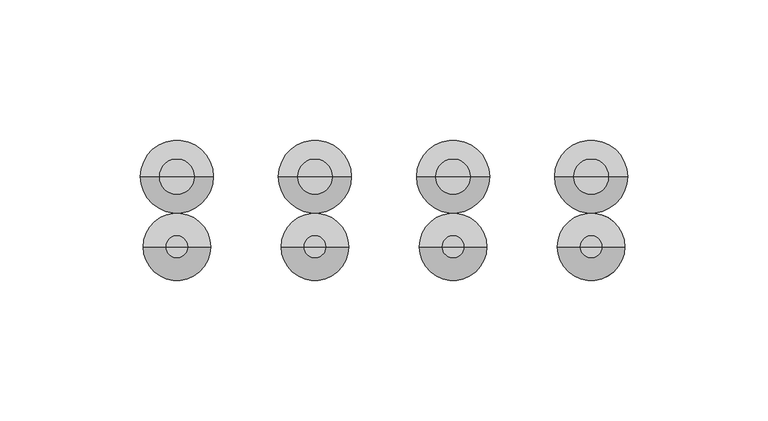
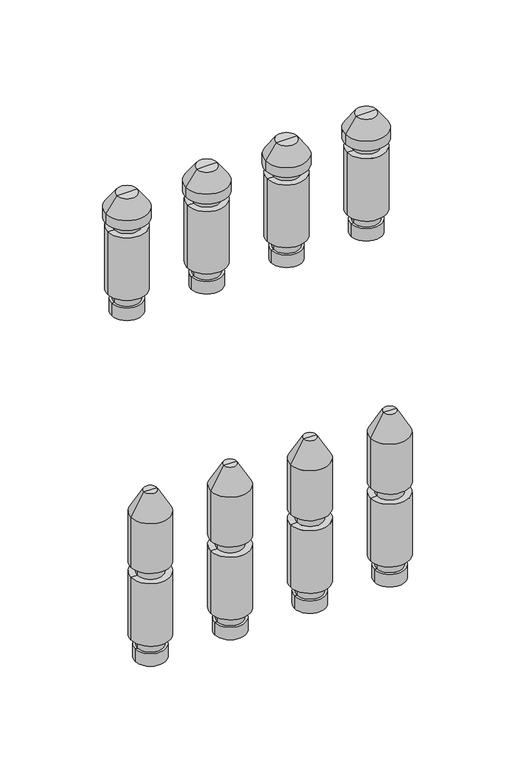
"""IFC4 building model written with IfcOpenShell, lengths in millimetres: valve geometry, PL AT_Manifold_FT-EV : 11 circuits."""

from ifc_helpers import new_model, si_unit, frame, origin, place, context, project, spatial, polyline, circle_curve, source, transform, mapped, element, save
from ifc_brep_helpers import plane_surface, cylinder_surface, revolved_surface, advanced_brep


def valve_f26d3ca9(model_context):
    return source(origin(), model_context, "Body", "AdvancedBrep", [
        advanced_brep(
        [(278.5, 0.0, -35.11267), (297.5, 0.0, -35.11267), (288.0, 0.0, -35.11267), (278.5, 0.0, -27.0369646), (297.5, 0.0, -27.0369646), (280.0, 0.0, -27.0369646), (296.0, 0.0, -27.0369646), (280.0, 0.0, -20.330253), (296.0, 0.0, -20.330253), (276.0, 0.0, -20.330253), (300.0, 0.0, -20.330253), (276.0, 0.0, 20.330253), (300.0, 0.0, 20.330253), (280.0, 0.0, 20.330253), (296.0, 0.0, 20.330253), (280.0, 0.0, 27.0474786), (296.0, 0.0, 27.0474786), (276.0, 0.0, 27.0474786), (300.0, 0.0, 27.0474786), (276.0, 0.0, 59.4084325), (300.0, 0.0, 59.4084325), (284.0, 0.0, 73.264839), (292.0, 0.0, 73.264839), (288.0, 0.0, 73.264839)],
        [
            (0, 1, circle_curve(frame((288.0, 0.0, -35.11267), z_axis=(0.0, 0.0, -1.0), x_axis=(1.0, 0.0, 0.0)), 9.5)),
            (1, 2),
            (2, 0),
            (1, 0, circle_curve(frame((288.0, 0.0, -35.11267), z_axis=(0.0, 0.0, -1.0), x_axis=(1.0, 0.0, 0.0)), 9.5)),
            (3, 4, circle_curve(frame((288.0, 0.0, -27.0369646), z_axis=(0.0, 0.0, -1.0), x_axis=(1.0, 0.0, 0.0)), 9.5)),
            (4, 1),
            (0, 3),
            (4, 3, circle_curve(frame((288.0, 0.0, -27.0369646), z_axis=(0.0, 0.0, -1.0), x_axis=(1.0, 0.0, 0.0)), 9.5)),
            (5, 6, circle_curve(frame((288.0, 0.0, -27.0369646), z_axis=(0.0, 0.0, -1.0), x_axis=(1.0, 0.0, 0.0)), 8.0)),
            (6, 4),
            (3, 5),
            (6, 5, circle_curve(frame((288.0, 0.0, -27.0369646), z_axis=(0.0, 0.0, -1.0), x_axis=(1.0, 0.0, 0.0)), 8.0)),
            (7, 8, circle_curve(frame((288.0, 0.0, -20.330253), z_axis=(0.0, 0.0, -1.0), x_axis=(1.0, 0.0, 0.0)), 8.0)),
            (8, 6),
            (5, 7),
            (8, 7, circle_curve(frame((288.0, 0.0, -20.330253), z_axis=(0.0, 0.0, -1.0), x_axis=(1.0, 0.0, 0.0)), 8.0)),
            (9, 10, circle_curve(frame((288.0, 0.0, -20.330253), z_axis=(0.0, 0.0, -1.0), x_axis=(1.0, 0.0, 0.0)), 12.0)),
            (10, 8),
            (7, 9),
            (10, 9, circle_curve(frame((288.0, 0.0, -20.330253), z_axis=(0.0, 0.0, -1.0), x_axis=(1.0, 0.0, 0.0)), 12.0)),
            (11, 12, circle_curve(frame((288.0, 0.0, 20.330253), z_axis=(0.0, 0.0, -1.0), x_axis=(1.0, 0.0, 0.0)), 12.0)),
            (12, 10),
            (9, 11),
            (12, 11, circle_curve(frame((288.0, 0.0, 20.330253), z_axis=(0.0, 0.0, -1.0), x_axis=(1.0, 0.0, 0.0)), 12.0)),
            (13, 14, circle_curve(frame((288.0, 0.0, 20.330253), z_axis=(0.0, 0.0, -1.0), x_axis=(1.0, 0.0, 0.0)), 8.0)),
            (14, 12),
            (11, 13),
            (14, 13, circle_curve(frame((288.0, 0.0, 20.330253), z_axis=(0.0, 0.0, -1.0), x_axis=(1.0, 0.0, 0.0)), 8.0)),
            (15, 16, circle_curve(frame((288.0, 0.0, 27.0474786), z_axis=(0.0, 0.0, -1.0), x_axis=(1.0, 0.0, 0.0)), 8.0)),
            (16, 14),
            (13, 15),
            (16, 15, circle_curve(frame((288.0, 0.0, 27.0474786), z_axis=(0.0, 0.0, -1.0), x_axis=(1.0, 0.0, 0.0)), 8.0)),
            (17, 18, circle_curve(frame((288.0, 0.0, 27.0474786), z_axis=(0.0, 0.0, -1.0), x_axis=(1.0, 0.0, 0.0)), 12.0)),
            (18, 16),
            (15, 17),
            (18, 17, circle_curve(frame((288.0, 0.0, 27.0474786), z_axis=(0.0, 0.0, -1.0), x_axis=(1.0, 0.0, 0.0)), 12.0)),
            (19, 20, circle_curve(frame((288.0, 0.0, 59.4084325), z_axis=(0.0, 0.0, -1.0), x_axis=(1.0, 0.0, 0.0)), 12.0)),
            (20, 18),
            (17, 19),
            (20, 19, circle_curve(frame((288.0, 0.0, 59.4084325), z_axis=(0.0, 0.0, -1.0), x_axis=(1.0, 0.0, 0.0)), 12.0)),
            (21, 22, circle_curve(frame((288.0, 0.0, 73.264839), z_axis=(0.0, 0.0, -1.0), x_axis=(1.0, 0.0, 0.0)), 4.0)),
            (22, 20),
            (19, 21),
            (22, 21, circle_curve(frame((288.0, 0.0, 73.264839), z_axis=(0.0, 0.0, -1.0), x_axis=(1.0, 0.0, 0.0)), 4.0)),
            (23, 22),
            (21, 23),
        ],
        [
            plane_surface(frame((288.0, 0.0, -35.11267), z_axis=(0.0, 0.0, -1.0), x_axis=(1.0, 0.0, 0.0))),
            cylinder_surface(frame((288.0, 0.0, 58.264839), z_axis=(0.0, 0.0, 1.0), x_axis=(1.0, 0.0, 0.0)), 9.5),
            plane_surface(frame((288.0, 0.0, -27.0369646), z_axis=(0.0, 0.0, 1.0), x_axis=(1.0, 0.0, 0.0))),
            cylinder_surface(frame((288.0, 0.0, 58.264839), z_axis=(0.0, 0.0, 1.0), x_axis=(1.0, 0.0, 0.0)), 8.0),
            plane_surface(frame((288.0, 0.0, -20.330253), z_axis=(0.0, 0.0, -1.0), x_axis=(1.0, 0.0, 0.0))),
            cylinder_surface(frame((288.0, 0.0, 58.264839), z_axis=(0.0, 0.0, 1.0), x_axis=(1.0, 0.0, 0.0)), 12.0),
            plane_surface(frame((288.0, 0.0, 20.330253), z_axis=(0.0, 0.0, 1.0), x_axis=(1.0, 0.0, 0.0))),
            plane_surface(frame((288.0, 0.0, 27.0474786), z_axis=(0.0, 0.0, -1.0), x_axis=(1.0, 0.0, 0.0))),
            revolved_surface(polyline([(300.0, 0.0, 59.4084325), (292.0, 0.0, 73.264839)]), (288.0, 0.0, 58.264839), (0.0, 0.0, 1.0)),
            plane_surface(frame((288.0, 0.0, 73.264839), z_axis=(0.0, 0.0, 1.0), x_axis=(1.0, 0.0, 0.0))),
        ],
        [
            (0, [[1, 2, 3]]),
            (0, [[4, -3, -2]]),
            (1, [[5, 6, -1, 7]]),
            (1, [[8, -7, -4, -6]]),
            (2, [[9, 10, -5, 11]]),
            (2, [[12, -11, -8, -10]]),
            (3, [[13, 14, -9, 15]]),
            (3, [[16, -15, -12, -14]]),
            (4, [[17, 18, -13, 19]]),
            (4, [[20, -19, -16, -18]]),
            (5, [[21, 22, -17, 23]]),
            (5, [[24, -23, -20, -22]]),
            (6, [[25, 26, -21, 27]]),
            (6, [[28, -27, -24, -26]]),
            (3, [[29, 30, -25, 31]]),
            (3, [[32, -31, -28, -30]]),
            (7, [[33, 34, -29, 35]]),
            (7, [[36, -35, -32, -34]]),
            (5, [[37, 38, -33, 39]]),
            (5, [[40, -39, -36, -38]]),
            (8, [[41, 42, -37, 43]]),
            (8, [[44, -43, -40, -42]]),
            (9, [[45, -41, 46]]),
            (9, [[-46, -44, -45]]),
        ],
    ),
        advanced_brep(
        [(229.3, 0.0, -35.11267), (248.3, 0.0, -35.11267), (238.8, 0.0, -35.11267), (229.3, 0.0, -27.0369646), (248.3, 0.0, -27.0369646), (230.8, 0.0, -27.0369646), (246.8, 0.0, -27.0369646), (230.8, 0.0, -20.330253), (246.8, 0.0, -20.330253), (226.8, 0.0, -20.330253), (250.8, 0.0, -20.330253), (226.8, 0.0, 20.330253), (250.8, 0.0, 20.330253), (230.8, 0.0, 20.330253), (246.8, 0.0, 20.330253), (230.8, 0.0, 27.0474786), (246.8, 0.0, 27.0474786), (226.8, 0.0, 27.0474786), (250.8, 0.0, 27.0474786), (226.8, 0.0, 59.4084325), (250.8, 0.0, 59.4084325), (234.8, 0.0, 73.264839), (242.8, 0.0, 73.264839), (238.8, 0.0, 73.264839)],
        [
            (0, 1, circle_curve(frame((238.8, 0.0, -35.11267), z_axis=(0.0, 0.0, -1.0), x_axis=(1.0, 0.0, 0.0)), 9.5)),
            (1, 2),
            (2, 0),
            (1, 0, circle_curve(frame((238.8, 0.0, -35.11267), z_axis=(0.0, 0.0, -1.0), x_axis=(1.0, 0.0, 0.0)), 9.5)),
            (3, 4, circle_curve(frame((238.8, 0.0, -27.0369646), z_axis=(0.0, 0.0, -1.0), x_axis=(1.0, 0.0, 0.0)), 9.5)),
            (4, 1),
            (0, 3),
            (4, 3, circle_curve(frame((238.8, 0.0, -27.0369646), z_axis=(0.0, 0.0, -1.0), x_axis=(1.0, 0.0, 0.0)), 9.5)),
            (5, 6, circle_curve(frame((238.8, 0.0, -27.0369646), z_axis=(0.0, 0.0, -1.0), x_axis=(1.0, 0.0, 0.0)), 8.0)),
            (6, 4),
            (3, 5),
            (6, 5, circle_curve(frame((238.8, 0.0, -27.0369646), z_axis=(0.0, 0.0, -1.0), x_axis=(1.0, 0.0, 0.0)), 8.0)),
            (7, 8, circle_curve(frame((238.8, 0.0, -20.330253), z_axis=(0.0, 0.0, -1.0), x_axis=(1.0, 0.0, 0.0)), 8.0)),
            (8, 6),
            (5, 7),
            (8, 7, circle_curve(frame((238.8, 0.0, -20.330253), z_axis=(0.0, 0.0, -1.0), x_axis=(1.0, 0.0, 0.0)), 8.0)),
            (9, 10, circle_curve(frame((238.8, 0.0, -20.330253), z_axis=(0.0, 0.0, -1.0), x_axis=(1.0, 0.0, 0.0)), 12.0)),
            (10, 8),
            (7, 9),
            (10, 9, circle_curve(frame((238.8, 0.0, -20.330253), z_axis=(0.0, 0.0, -1.0), x_axis=(1.0, 0.0, 0.0)), 12.0)),
            (11, 12, circle_curve(frame((238.8, 0.0, 20.330253), z_axis=(0.0, 0.0, -1.0), x_axis=(1.0, 0.0, 0.0)), 12.0)),
            (12, 10),
            (9, 11),
            (12, 11, circle_curve(frame((238.8, 0.0, 20.330253), z_axis=(0.0, 0.0, -1.0), x_axis=(1.0, 0.0, 0.0)), 12.0)),
            (13, 14, circle_curve(frame((238.8, 0.0, 20.330253), z_axis=(0.0, 0.0, -1.0), x_axis=(1.0, 0.0, 0.0)), 8.0)),
            (14, 12),
            (11, 13),
            (14, 13, circle_curve(frame((238.8, 0.0, 20.330253), z_axis=(0.0, 0.0, -1.0), x_axis=(1.0, 0.0, 0.0)), 8.0)),
            (15, 16, circle_curve(frame((238.8, 0.0, 27.0474786), z_axis=(0.0, 0.0, -1.0), x_axis=(1.0, 0.0, 0.0)), 8.0)),
            (16, 14),
            (13, 15),
            (16, 15, circle_curve(frame((238.8, 0.0, 27.0474786), z_axis=(0.0, 0.0, -1.0), x_axis=(1.0, 0.0, 0.0)), 8.0)),
            (17, 18, circle_curve(frame((238.8, 0.0, 27.0474786), z_axis=(0.0, 0.0, -1.0), x_axis=(1.0, 0.0, 0.0)), 12.0)),
            (18, 16),
            (15, 17),
            (18, 17, circle_curve(frame((238.8, 0.0, 27.0474786), z_axis=(0.0, 0.0, -1.0), x_axis=(1.0, 0.0, 0.0)), 12.0)),
            (19, 20, circle_curve(frame((238.8, 0.0, 59.4084325), z_axis=(0.0, 0.0, -1.0), x_axis=(1.0, 0.0, 0.0)), 12.0)),
            (20, 18),
            (17, 19),
            (20, 19, circle_curve(frame((238.8, 0.0, 59.4084325), z_axis=(0.0, 0.0, -1.0), x_axis=(1.0, 0.0, 0.0)), 12.0)),
            (21, 22, circle_curve(frame((238.8, 0.0, 73.264839), z_axis=(0.0, 0.0, -1.0), x_axis=(1.0, 0.0, 0.0)), 4.0)),
            (22, 20),
            (19, 21),
            (22, 21, circle_curve(frame((238.8, 0.0, 73.264839), z_axis=(0.0, 0.0, -1.0), x_axis=(1.0, 0.0, 0.0)), 4.0)),
            (23, 22),
            (21, 23),
        ],
        [
            plane_surface(frame((238.8, 0.0, -35.11267), z_axis=(0.0, 0.0, -1.0), x_axis=(1.0, 0.0, 0.0))),
            cylinder_surface(frame((238.8, 0.0, 58.264839), z_axis=(0.0, 0.0, 1.0), x_axis=(1.0, 0.0, 0.0)), 9.5),
            plane_surface(frame((238.8, 0.0, -27.0369646), z_axis=(0.0, 0.0, 1.0), x_axis=(1.0, 0.0, 0.0))),
            cylinder_surface(frame((238.8, 0.0, 58.264839), z_axis=(0.0, 0.0, 1.0), x_axis=(1.0, 0.0, 0.0)), 8.0),
            plane_surface(frame((238.8, 0.0, -20.330253), z_axis=(0.0, 0.0, -1.0), x_axis=(1.0, 0.0, 0.0))),
            cylinder_surface(frame((238.8, 0.0, 58.264839), z_axis=(0.0, 0.0, 1.0), x_axis=(1.0, 0.0, 0.0)), 12.0),
            plane_surface(frame((238.8, 0.0, 20.330253), z_axis=(0.0, 0.0, 1.0), x_axis=(1.0, 0.0, 0.0))),
            plane_surface(frame((238.8, 0.0, 27.0474786), z_axis=(0.0, 0.0, -1.0), x_axis=(1.0, 0.0, 0.0))),
            revolved_surface(polyline([(250.8, 0.0, 59.4084325), (242.8, 0.0, 73.264839)]), (238.8, 0.0, 58.264839), (0.0, 0.0, 1.0)),
            plane_surface(frame((238.8, 0.0, 73.264839), z_axis=(0.0, 0.0, 1.0), x_axis=(1.0, 0.0, 0.0))),
        ],
        [
            (0, [[1, 2, 3]]),
            (0, [[4, -3, -2]]),
            (1, [[5, 6, -1, 7]]),
            (1, [[8, -7, -4, -6]]),
            (2, [[9, 10, -5, 11]]),
            (2, [[12, -11, -8, -10]]),
            (3, [[13, 14, -9, 15]]),
            (3, [[16, -15, -12, -14]]),
            (4, [[17, 18, -13, 19]]),
            (4, [[20, -19, -16, -18]]),
            (5, [[21, 22, -17, 23]]),
            (5, [[24, -23, -20, -22]]),
            (6, [[25, 26, -21, 27]]),
            (6, [[28, -27, -24, -26]]),
            (3, [[29, 30, -25, 31]]),
            (3, [[32, -31, -28, -30]]),
            (7, [[33, 34, -29, 35]]),
            (7, [[36, -35, -32, -34]]),
            (5, [[37, 38, -33, 39]]),
            (5, [[40, -39, -36, -38]]),
            (8, [[41, 42, -37, 43]]),
            (8, [[44, -43, -40, -42]]),
            (9, [[45, -41, 46]]),
            (9, [[-46, -44, -45]]),
        ],
    ),
        advanced_brep(
        [(180.1, 0.0, -35.11267), (199.1, 0.0, -35.11267), (189.6, 0.0, -35.11267), (180.1, 0.0, -27.0369646), (199.1, 0.0, -27.0369646), (181.6, 0.0, -27.0369646), (197.6, 0.0, -27.0369646), (181.6, 0.0, -20.330253), (197.6, 0.0, -20.330253), (177.6, 0.0, -20.330253), (201.6, 0.0, -20.330253), (177.6, 0.0, 20.330253), (201.6, 0.0, 20.330253), (181.6, 0.0, 20.330253), (197.6, 0.0, 20.330253), (181.6, 0.0, 27.0474786), (197.6, 0.0, 27.0474786), (177.6, 0.0, 27.0474786), (201.6, 0.0, 27.0474786), (177.6, 0.0, 59.4084325), (201.6, 0.0, 59.4084325), (185.6, 0.0, 73.264839), (193.6, 0.0, 73.264839), (189.6, 0.0, 73.264839)],
        [
            (0, 1, circle_curve(frame((189.6, 0.0, -35.11267), z_axis=(0.0, 0.0, -1.0), x_axis=(1.0, 0.0, 0.0)), 9.5)),
            (1, 2),
            (2, 0),
            (1, 0, circle_curve(frame((189.6, 0.0, -35.11267), z_axis=(0.0, 0.0, -1.0), x_axis=(1.0, 0.0, 0.0)), 9.5)),
            (3, 4, circle_curve(frame((189.6, 0.0, -27.0369646), z_axis=(0.0, 0.0, -1.0), x_axis=(1.0, 0.0, 0.0)), 9.5)),
            (4, 1),
            (0, 3),
            (4, 3, circle_curve(frame((189.6, 0.0, -27.0369646), z_axis=(0.0, 0.0, -1.0), x_axis=(1.0, 0.0, 0.0)), 9.5)),
            (5, 6, circle_curve(frame((189.6, 0.0, -27.0369646), z_axis=(0.0, 0.0, -1.0), x_axis=(1.0, 0.0, 0.0)), 8.0)),
            (6, 4),
            (3, 5),
            (6, 5, circle_curve(frame((189.6, 0.0, -27.0369646), z_axis=(0.0, 0.0, -1.0), x_axis=(1.0, 0.0, 0.0)), 8.0)),
            (7, 8, circle_curve(frame((189.6, 0.0, -20.330253), z_axis=(0.0, 0.0, -1.0), x_axis=(1.0, 0.0, 0.0)), 8.0)),
            (8, 6),
            (5, 7),
            (8, 7, circle_curve(frame((189.6, 0.0, -20.330253), z_axis=(0.0, 0.0, -1.0), x_axis=(1.0, 0.0, 0.0)), 8.0)),
            (9, 10, circle_curve(frame((189.6, 0.0, -20.330253), z_axis=(0.0, 0.0, -1.0), x_axis=(1.0, 0.0, 0.0)), 12.0)),
            (10, 8),
            (7, 9),
            (10, 9, circle_curve(frame((189.6, 0.0, -20.330253), z_axis=(0.0, 0.0, -1.0), x_axis=(1.0, 0.0, 0.0)), 12.0)),
            (11, 12, circle_curve(frame((189.6, 0.0, 20.330253), z_axis=(0.0, 0.0, -1.0), x_axis=(1.0, 0.0, 0.0)), 12.0)),
            (12, 10),
            (9, 11),
            (12, 11, circle_curve(frame((189.6, 0.0, 20.330253), z_axis=(0.0, 0.0, -1.0), x_axis=(1.0, 0.0, 0.0)), 12.0)),
            (13, 14, circle_curve(frame((189.6, 0.0, 20.330253), z_axis=(0.0, 0.0, -1.0), x_axis=(1.0, 0.0, 0.0)), 8.0)),
            (14, 12),
            (11, 13),
            (14, 13, circle_curve(frame((189.6, 0.0, 20.330253), z_axis=(0.0, 0.0, -1.0), x_axis=(1.0, 0.0, 0.0)), 8.0)),
            (15, 16, circle_curve(frame((189.6, 0.0, 27.0474786), z_axis=(0.0, 0.0, -1.0), x_axis=(1.0, 0.0, 0.0)), 8.0)),
            (16, 14),
            (13, 15),
            (16, 15, circle_curve(frame((189.6, 0.0, 27.0474786), z_axis=(0.0, 0.0, -1.0), x_axis=(1.0, 0.0, 0.0)), 8.0)),
            (17, 18, circle_curve(frame((189.6, 0.0, 27.0474786), z_axis=(0.0, 0.0, -1.0), x_axis=(1.0, 0.0, 0.0)), 12.0)),
            (18, 16),
            (15, 17),
            (18, 17, circle_curve(frame((189.6, 0.0, 27.0474786), z_axis=(0.0, 0.0, -1.0), x_axis=(1.0, 0.0, 0.0)), 12.0)),
            (19, 20, circle_curve(frame((189.6, 0.0, 59.4084325), z_axis=(0.0, 0.0, -1.0), x_axis=(1.0, 0.0, 0.0)), 12.0)),
            (20, 18),
            (17, 19),
            (20, 19, circle_curve(frame((189.6, 0.0, 59.4084325), z_axis=(0.0, 0.0, -1.0), x_axis=(1.0, 0.0, 0.0)), 12.0)),
            (21, 22, circle_curve(frame((189.6, 0.0, 73.264839), z_axis=(0.0, 0.0, -1.0), x_axis=(1.0, 0.0, 0.0)), 4.0)),
            (22, 20),
            (19, 21),
            (22, 21, circle_curve(frame((189.6, 0.0, 73.264839), z_axis=(0.0, 0.0, -1.0), x_axis=(1.0, 0.0, 0.0)), 4.0)),
            (23, 22),
            (21, 23),
        ],
        [
            plane_surface(frame((189.6, 0.0, -35.11267), z_axis=(0.0, 0.0, -1.0), x_axis=(1.0, 0.0, 0.0))),
            cylinder_surface(frame((189.6, 0.0, 58.264839), z_axis=(0.0, 0.0, 1.0), x_axis=(1.0, 0.0, 0.0)), 9.5),
            plane_surface(frame((189.6, 0.0, -27.0369646), z_axis=(0.0, 0.0, 1.0), x_axis=(1.0, 0.0, 0.0))),
            cylinder_surface(frame((189.6, 0.0, 58.264839), z_axis=(0.0, 0.0, 1.0), x_axis=(1.0, 0.0, 0.0)), 8.0),
            plane_surface(frame((189.6, 0.0, -20.330253), z_axis=(0.0, 0.0, -1.0), x_axis=(1.0, 0.0, 0.0))),
            cylinder_surface(frame((189.6, 0.0, 58.264839), z_axis=(0.0, 0.0, 1.0), x_axis=(1.0, 0.0, 0.0)), 12.0),
            plane_surface(frame((189.6, 0.0, 20.330253), z_axis=(0.0, 0.0, 1.0), x_axis=(1.0, 0.0, 0.0))),
            plane_surface(frame((189.6, 0.0, 27.0474786), z_axis=(0.0, 0.0, -1.0), x_axis=(1.0, 0.0, 0.0))),
            revolved_surface(polyline([(201.6, 0.0, 59.4084325), (193.6, 0.0, 73.264839)]), (189.6, 0.0, 58.264839), (0.0, 0.0, 1.0)),
            plane_surface(frame((189.6, 0.0, 73.264839), z_axis=(0.0, 0.0, 1.0), x_axis=(1.0, 0.0, 0.0))),
        ],
        [
            (0, [[1, 2, 3]]),
            (0, [[4, -3, -2]]),
            (1, [[5, 6, -1, 7]]),
            (1, [[8, -7, -4, -6]]),
            (2, [[9, 10, -5, 11]]),
            (2, [[12, -11, -8, -10]]),
            (3, [[13, 14, -9, 15]]),
            (3, [[16, -15, -12, -14]]),
            (4, [[17, 18, -13, 19]]),
            (4, [[20, -19, -16, -18]]),
            (5, [[21, 22, -17, 23]]),
            (5, [[24, -23, -20, -22]]),
            (6, [[25, 26, -21, 27]]),
            (6, [[28, -27, -24, -26]]),
            (3, [[29, 30, -25, 31]]),
            (3, [[32, -31, -28, -30]]),
            (7, [[33, 34, -29, 35]]),
            (7, [[36, -35, -32, -34]]),
            (5, [[37, 38, -33, 39]]),
            (5, [[40, -39, -36, -38]]),
            (8, [[41, 42, -37, 43]]),
            (8, [[44, -43, -40, -42]]),
            (9, [[45, -41, 46]]),
            (9, [[-46, -44, -45]]),
        ],
    ),
        advanced_brep(
        [(130.9, 0.0, -35.11267), (149.9, 0.0, -35.11267), (140.4, 0.0, -35.11267), (130.9, 0.0, -27.0369646), (149.9, 0.0, -27.0369646), (132.4, 0.0, -27.0369646), (148.4, 0.0, -27.0369646), (132.4, 0.0, -20.330253), (148.4, 0.0, -20.330253), (128.4, 0.0, -20.330253), (152.4, 0.0, -20.330253), (128.4, 0.0, 20.330253), (152.4, 0.0, 20.330253), (132.4, 0.0, 20.330253), (148.4, 0.0, 20.330253), (132.4, 0.0, 27.0474786), (148.4, 0.0, 27.0474786), (128.4, 0.0, 27.0474786), (152.4, 0.0, 27.0474786), (128.4, 0.0, 59.4084325), (152.4, 0.0, 59.4084325), (136.4, 0.0, 73.264839), (144.4, 0.0, 73.264839), (140.4, 0.0, 73.264839)],
        [
            (0, 1, circle_curve(frame((140.4, 0.0, -35.11267), z_axis=(0.0, 0.0, -1.0), x_axis=(1.0, 0.0, 0.0)), 9.5)),
            (1, 2),
            (2, 0),
            (1, 0, circle_curve(frame((140.4, 0.0, -35.11267), z_axis=(0.0, 0.0, -1.0), x_axis=(1.0, 0.0, 0.0)), 9.5)),
            (3, 4, circle_curve(frame((140.4, 0.0, -27.0369646), z_axis=(0.0, 0.0, -1.0), x_axis=(1.0, 0.0, 0.0)), 9.5)),
            (4, 1),
            (0, 3),
            (4, 3, circle_curve(frame((140.4, 0.0, -27.0369646), z_axis=(0.0, 0.0, -1.0), x_axis=(1.0, 0.0, 0.0)), 9.5)),
            (5, 6, circle_curve(frame((140.4, 0.0, -27.0369646), z_axis=(0.0, 0.0, -1.0), x_axis=(1.0, 0.0, 0.0)), 8.0)),
            (6, 4),
            (3, 5),
            (6, 5, circle_curve(frame((140.4, 0.0, -27.0369646), z_axis=(0.0, 0.0, -1.0), x_axis=(1.0, 0.0, 0.0)), 8.0)),
            (7, 8, circle_curve(frame((140.4, 0.0, -20.330253), z_axis=(0.0, 0.0, -1.0), x_axis=(1.0, 0.0, 0.0)), 8.0)),
            (8, 6),
            (5, 7),
            (8, 7, circle_curve(frame((140.4, 0.0, -20.330253), z_axis=(0.0, 0.0, -1.0), x_axis=(1.0, 0.0, 0.0)), 8.0)),
            (9, 10, circle_curve(frame((140.4, 0.0, -20.330253), z_axis=(0.0, 0.0, -1.0), x_axis=(1.0, 0.0, 0.0)), 12.0)),
            (10, 8),
            (7, 9),
            (10, 9, circle_curve(frame((140.4, 0.0, -20.330253), z_axis=(0.0, 0.0, -1.0), x_axis=(1.0, 0.0, 0.0)), 12.0)),
            (11, 12, circle_curve(frame((140.4, 0.0, 20.330253), z_axis=(0.0, 0.0, -1.0), x_axis=(1.0, 0.0, 0.0)), 12.0)),
            (12, 10),
            (9, 11),
            (12, 11, circle_curve(frame((140.4, 0.0, 20.330253), z_axis=(0.0, 0.0, -1.0), x_axis=(1.0, 0.0, 0.0)), 12.0)),
            (13, 14, circle_curve(frame((140.4, 0.0, 20.330253), z_axis=(0.0, 0.0, -1.0), x_axis=(1.0, 0.0, 0.0)), 8.0)),
            (14, 12),
            (11, 13),
            (14, 13, circle_curve(frame((140.4, 0.0, 20.330253), z_axis=(0.0, 0.0, -1.0), x_axis=(1.0, 0.0, 0.0)), 8.0)),
            (15, 16, circle_curve(frame((140.4, 0.0, 27.0474786), z_axis=(0.0, 0.0, -1.0), x_axis=(1.0, 0.0, 0.0)), 8.0)),
            (16, 14),
            (13, 15),
            (16, 15, circle_curve(frame((140.4, 0.0, 27.0474786), z_axis=(0.0, 0.0, -1.0), x_axis=(1.0, 0.0, 0.0)), 8.0)),
            (17, 18, circle_curve(frame((140.4, 0.0, 27.0474786), z_axis=(0.0, 0.0, -1.0), x_axis=(1.0, 0.0, 0.0)), 12.0)),
            (18, 16),
            (15, 17),
            (18, 17, circle_curve(frame((140.4, 0.0, 27.0474786), z_axis=(0.0, 0.0, -1.0), x_axis=(1.0, 0.0, 0.0)), 12.0)),
            (19, 20, circle_curve(frame((140.4, 0.0, 59.4084325), z_axis=(0.0, 0.0, -1.0), x_axis=(1.0, 0.0, 0.0)), 12.0)),
            (20, 18),
            (17, 19),
            (20, 19, circle_curve(frame((140.4, 0.0, 59.4084325), z_axis=(0.0, 0.0, -1.0), x_axis=(1.0, 0.0, 0.0)), 12.0)),
            (21, 22, circle_curve(frame((140.4, 0.0, 73.264839), z_axis=(0.0, 0.0, -1.0), x_axis=(1.0, 0.0, 0.0)), 4.0)),
            (22, 20),
            (19, 21),
            (22, 21, circle_curve(frame((140.4, 0.0, 73.264839), z_axis=(0.0, 0.0, -1.0), x_axis=(1.0, 0.0, 0.0)), 4.0)),
            (23, 22),
            (21, 23),
        ],
        [
            plane_surface(frame((140.4, 0.0, -35.11267), z_axis=(0.0, 0.0, -1.0), x_axis=(1.0, 0.0, 0.0))),
            cylinder_surface(frame((140.4, 0.0, 58.264839), z_axis=(0.0, 0.0, 1.0), x_axis=(1.0, 0.0, 0.0)), 9.5),
            plane_surface(frame((140.4, 0.0, -27.0369646), z_axis=(0.0, 0.0, 1.0), x_axis=(1.0, 0.0, 0.0))),
            cylinder_surface(frame((140.4, 0.0, 58.264839), z_axis=(0.0, 0.0, 1.0), x_axis=(1.0, 0.0, 0.0)), 8.0),
            plane_surface(frame((140.4, 0.0, -20.330253), z_axis=(0.0, 0.0, -1.0), x_axis=(1.0, 0.0, 0.0))),
            cylinder_surface(frame((140.4, 0.0, 58.264839), z_axis=(0.0, 0.0, 1.0), x_axis=(1.0, 0.0, 0.0)), 12.0),
            plane_surface(frame((140.4, 0.0, 20.330253), z_axis=(0.0, 0.0, 1.0), x_axis=(1.0, 0.0, 0.0))),
            plane_surface(frame((140.4, 0.0, 27.0474786), z_axis=(0.0, 0.0, -1.0), x_axis=(1.0, 0.0, 0.0))),
            revolved_surface(polyline([(152.4, 0.0, 59.4084325), (144.4, 0.0, 73.264839)]), (140.4, 0.0, 58.264839), (0.0, 0.0, 1.0)),
            plane_surface(frame((140.4, 0.0, 73.264839), z_axis=(0.0, 0.0, 1.0), x_axis=(1.0, 0.0, 0.0))),
        ],
        [
            (0, [[1, 2, 3]]),
            (0, [[4, -3, -2]]),
            (1, [[5, 6, -1, 7]]),
            (1, [[8, -7, -4, -6]]),
            (2, [[9, 10, -5, 11]]),
            (2, [[12, -11, -8, -10]]),
            (3, [[13, 14, -9, 15]]),
            (3, [[16, -15, -12, -14]]),
            (4, [[17, 18, -13, 19]]),
            (4, [[20, -19, -16, -18]]),
            (5, [[21, 22, -17, 23]]),
            (5, [[24, -23, -20, -22]]),
            (6, [[25, 26, -21, 27]]),
            (6, [[28, -27, -24, -26]]),
            (3, [[29, 30, -25, 31]]),
            (3, [[32, -31, -28, -30]]),
            (7, [[33, 34, -29, 35]]),
            (7, [[36, -35, -32, -34]]),
            (5, [[37, 38, -33, 39]]),
            (5, [[40, -39, -36, -38]]),
            (8, [[41, 42, -37, 43]]),
            (8, [[44, -43, -40, -42]]),
            (9, [[45, -41, 46]]),
            (9, [[-46, -44, -45]]),
        ],
    ),
        advanced_brep(
        [(278.5, 25.0, 174.88733), (297.5, 25.0, 174.88733), (288.0, 25.0, 174.88733), (278.5, 25.0, 182.9630354), (297.5, 25.0, 182.9630354), (280.0, 25.0, 182.9630354), (296.0, 25.0, 182.9630354), (280.0, 25.0, 189.669747), (296.0, 25.0, 189.669747), (276.0, 25.0, 189.669747), (300.0, 25.0, 189.669747), (276.0, 25.0, 230.330253), (300.0, 25.0, 230.330253), (280.0, 25.0, 230.330253), (296.0, 25.0, 230.330253), (280.0, 25.0, 236.0474786), (296.0, 25.0, 236.0474786), (275.0, 25.0, 236.0474786), (301.0, 25.0, 236.0474786), (275.0, 25.0, 242.337955), (301.0, 25.0, 242.337955), (281.6551779, 25.0, 251.842534), (294.3448221, 25.0, 251.842534), (288.0, 25.0, 251.842534)],
        [
            (0, 1, circle_curve(frame((288.0, 25.0, 174.88733), z_axis=(0.0, 0.0, -1.0), x_axis=(1.0, 0.0, 0.0)), 9.5)),
            (1, 2),
            (2, 0),
            (1, 0, circle_curve(frame((288.0, 25.0, 174.88733), z_axis=(0.0, 0.0, -1.0), x_axis=(1.0, 0.0, 0.0)), 9.5)),
            (3, 4, circle_curve(frame((288.0, 25.0, 182.9630354), z_axis=(0.0, 0.0, -1.0), x_axis=(1.0, 0.0, 0.0)), 9.5)),
            (4, 1),
            (0, 3),
            (4, 3, circle_curve(frame((288.0, 25.0, 182.9630354), z_axis=(0.0, 0.0, -1.0), x_axis=(1.0, 0.0, 0.0)), 9.5)),
            (5, 6, circle_curve(frame((288.0, 25.0, 182.9630354), z_axis=(0.0, 0.0, -1.0), x_axis=(1.0, 0.0, 0.0)), 8.0)),
            (6, 4),
            (3, 5),
            (6, 5, circle_curve(frame((288.0, 25.0, 182.9630354), z_axis=(0.0, 0.0, -1.0), x_axis=(1.0, 0.0, 0.0)), 8.0)),
            (7, 8, circle_curve(frame((288.0, 25.0, 189.669747), z_axis=(0.0, 0.0, -1.0), x_axis=(1.0, 0.0, 0.0)), 8.0)),
            (8, 6),
            (5, 7),
            (8, 7, circle_curve(frame((288.0, 25.0, 189.669747), z_axis=(0.0, 0.0, -1.0), x_axis=(1.0, 0.0, 0.0)), 8.0)),
            (9, 10, circle_curve(frame((288.0, 25.0, 189.669747), z_axis=(0.0, 0.0, -1.0), x_axis=(1.0, 0.0, 0.0)), 12.0)),
            (10, 8),
            (7, 9),
            (10, 9, circle_curve(frame((288.0, 25.0, 189.669747), z_axis=(0.0, 0.0, -1.0), x_axis=(1.0, 0.0, 0.0)), 12.0)),
            (11, 12, circle_curve(frame((288.0, 25.0, 230.330253), z_axis=(0.0, 0.0, -1.0), x_axis=(1.0, 0.0, 0.0)), 12.0)),
            (12, 10),
            (9, 11),
            (12, 11, circle_curve(frame((288.0, 25.0, 230.330253), z_axis=(0.0, 0.0, -1.0), x_axis=(1.0, 0.0, 0.0)), 12.0)),
            (13, 14, circle_curve(frame((288.0, 25.0, 230.330253), z_axis=(0.0, 0.0, -1.0), x_axis=(1.0, 0.0, 0.0)), 8.0)),
            (14, 12),
            (11, 13),
            (14, 13, circle_curve(frame((288.0, 25.0, 230.330253), z_axis=(0.0, 0.0, -1.0), x_axis=(1.0, 0.0, 0.0)), 8.0)),
            (15, 16, circle_curve(frame((288.0, 25.0, 236.0474786), z_axis=(0.0, 0.0, -1.0), x_axis=(1.0, 0.0, 0.0)), 8.0)),
            (16, 14),
            (13, 15),
            (16, 15, circle_curve(frame((288.0, 25.0, 236.0474786), z_axis=(0.0, 0.0, -1.0), x_axis=(1.0, 0.0, 0.0)), 8.0)),
            (17, 18, circle_curve(frame((288.0, 25.0, 236.0474786), z_axis=(0.0, 0.0, -1.0), x_axis=(1.0, 0.0, 0.0)), 13.0)),
            (18, 16),
            (15, 17),
            (18, 17, circle_curve(frame((288.0, 25.0, 236.0474786), z_axis=(0.0, 0.0, -1.0), x_axis=(1.0, 0.0, 0.0)), 13.0)),
            (19, 20, circle_curve(frame((288.0, 25.0, 242.337955), z_axis=(0.0, 0.0, -1.0), x_axis=(1.0, 0.0, 0.0)), 13.0)),
            (20, 18),
            (17, 19),
            (20, 19, circle_curve(frame((288.0, 25.0, 242.337955), z_axis=(0.0, 0.0, -1.0), x_axis=(1.0, 0.0, 0.0)), 13.0)),
            (21, 22, circle_curve(frame((288.0, 25.0, 251.842534), z_axis=(0.0, 0.0, -1.0), x_axis=(1.0, 0.0, 0.0)), 6.3448221)),
            (22, 20),
            (19, 21),
            (22, 21, circle_curve(frame((288.0, 25.0, 251.842534), z_axis=(0.0, 0.0, -1.0), x_axis=(1.0, 0.0, 0.0)), 6.3448221)),
            (23, 22),
            (21, 23),
        ],
        [
            plane_surface(frame((288.0, 25.0, 174.88733), z_axis=(0.0, 0.0, -1.0), x_axis=(1.0, 0.0, 0.0))),
            cylinder_surface(frame((288.0, 25.0, 247.7026565), z_axis=(0.0, 0.0, 1.0), x_axis=(1.0, 0.0, 0.0)), 9.5),
            plane_surface(frame((288.0, 25.0, 182.9630354), z_axis=(0.0, 0.0, 1.0), x_axis=(1.0, 0.0, 0.0))),
            cylinder_surface(frame((288.0, 25.0, 247.7026565), z_axis=(0.0, 0.0, 1.0), x_axis=(1.0, 0.0, 0.0)), 8.0),
            plane_surface(frame((288.0, 25.0, 189.669747), z_axis=(0.0, 0.0, -1.0), x_axis=(1.0, 0.0, 0.0))),
            cylinder_surface(frame((288.0, 25.0, 247.7026565), z_axis=(0.0, 0.0, 1.0), x_axis=(1.0, 0.0, 0.0)), 12.0),
            plane_surface(frame((288.0, 25.0, 230.330253), z_axis=(0.0, 0.0, 1.0), x_axis=(1.0, 0.0, 0.0))),
            plane_surface(frame((288.0, 25.0, 236.0474786), z_axis=(0.0, 0.0, -1.0), x_axis=(1.0, 0.0, 0.0))),
            cylinder_surface(frame((288.0, 25.0, 247.7026565), z_axis=(0.0, 0.0, 1.0), x_axis=(1.0, 0.0, 0.0)), 13.0),
            revolved_surface(polyline([(301.0, 25.0, 242.337955), (294.3448221, 25.0, 251.842534)]), (288.0, 25.0, 247.7026565), (0.0, 0.0, 1.0)),
            plane_surface(frame((288.0, 25.0, 251.842534), z_axis=(0.0, 0.0, 1.0), x_axis=(1.0, 0.0, 0.0))),
        ],
        [
            (0, [[1, 2, 3]]),
            (0, [[4, -3, -2]]),
            (1, [[5, 6, -1, 7]]),
            (1, [[8, -7, -4, -6]]),
            (2, [[9, 10, -5, 11]]),
            (2, [[12, -11, -8, -10]]),
            (3, [[13, 14, -9, 15]]),
            (3, [[16, -15, -12, -14]]),
            (4, [[17, 18, -13, 19]]),
            (4, [[20, -19, -16, -18]]),
            (5, [[21, 22, -17, 23]]),
            (5, [[24, -23, -20, -22]]),
            (6, [[25, 26, -21, 27]]),
            (6, [[28, -27, -24, -26]]),
            (3, [[29, 30, -25, 31]]),
            (3, [[32, -31, -28, -30]]),
            (7, [[33, 34, -29, 35]]),
            (7, [[36, -35, -32, -34]]),
            (8, [[37, 38, -33, 39]]),
            (8, [[40, -39, -36, -38]]),
            (9, [[41, 42, -37, 43]]),
            (9, [[44, -43, -40, -42]]),
            (10, [[45, -41, 46]]),
            (10, [[-46, -44, -45]]),
        ],
    ),
        advanced_brep(
        [(229.3, 25.0, 174.88733), (248.3, 25.0, 174.88733), (238.8, 25.0, 174.88733), (229.3, 25.0, 182.9630354), (248.3, 25.0, 182.9630354), (230.8, 25.0, 182.9630354), (246.8, 25.0, 182.9630354), (230.8, 25.0, 189.669747), (246.8, 25.0, 189.669747), (226.8, 25.0, 189.669747), (250.8, 25.0, 189.669747), (226.8, 25.0, 230.330253), (250.8, 25.0, 230.330253), (230.8, 25.0, 230.330253), (246.8, 25.0, 230.330253), (230.8, 25.0, 236.0474786), (246.8, 25.0, 236.0474786), (225.8, 25.0, 236.0474786), (251.8, 25.0, 236.0474786), (225.8, 25.0, 242.337955), (251.8, 25.0, 242.337955), (232.4551779, 25.0, 251.842534), (245.1448221, 25.0, 251.842534), (238.8, 25.0, 251.842534)],
        [
            (0, 1, circle_curve(frame((238.8, 25.0, 174.88733), z_axis=(0.0, 0.0, -1.0), x_axis=(1.0, 0.0, 0.0)), 9.5)),
            (1, 2),
            (2, 0),
            (1, 0, circle_curve(frame((238.8, 25.0, 174.88733), z_axis=(0.0, 0.0, -1.0), x_axis=(1.0, 0.0, 0.0)), 9.5)),
            (3, 4, circle_curve(frame((238.8, 25.0, 182.9630354), z_axis=(0.0, 0.0, -1.0), x_axis=(1.0, 0.0, 0.0)), 9.5)),
            (4, 1),
            (0, 3),
            (4, 3, circle_curve(frame((238.8, 25.0, 182.9630354), z_axis=(0.0, 0.0, -1.0), x_axis=(1.0, 0.0, 0.0)), 9.5)),
            (5, 6, circle_curve(frame((238.8, 25.0, 182.9630354), z_axis=(0.0, 0.0, -1.0), x_axis=(1.0, 0.0, 0.0)), 8.0)),
            (6, 4),
            (3, 5),
            (6, 5, circle_curve(frame((238.8, 25.0, 182.9630354), z_axis=(0.0, 0.0, -1.0), x_axis=(1.0, 0.0, 0.0)), 8.0)),
            (7, 8, circle_curve(frame((238.8, 25.0, 189.669747), z_axis=(0.0, 0.0, -1.0), x_axis=(1.0, 0.0, 0.0)), 8.0)),
            (8, 6),
            (5, 7),
            (8, 7, circle_curve(frame((238.8, 25.0, 189.669747), z_axis=(0.0, 0.0, -1.0), x_axis=(1.0, 0.0, 0.0)), 8.0)),
            (9, 10, circle_curve(frame((238.8, 25.0, 189.669747), z_axis=(0.0, 0.0, -1.0), x_axis=(1.0, 0.0, 0.0)), 12.0)),
            (10, 8),
            (7, 9),
            (10, 9, circle_curve(frame((238.8, 25.0, 189.669747), z_axis=(0.0, 0.0, -1.0), x_axis=(1.0, 0.0, 0.0)), 12.0)),
            (11, 12, circle_curve(frame((238.8, 25.0, 230.330253), z_axis=(0.0, 0.0, -1.0), x_axis=(1.0, 0.0, 0.0)), 12.0)),
            (12, 10),
            (9, 11),
            (12, 11, circle_curve(frame((238.8, 25.0, 230.330253), z_axis=(0.0, 0.0, -1.0), x_axis=(1.0, 0.0, 0.0)), 12.0)),
            (13, 14, circle_curve(frame((238.8, 25.0, 230.330253), z_axis=(0.0, 0.0, -1.0), x_axis=(1.0, 0.0, 0.0)), 8.0)),
            (14, 12),
            (11, 13),
            (14, 13, circle_curve(frame((238.8, 25.0, 230.330253), z_axis=(0.0, 0.0, -1.0), x_axis=(1.0, 0.0, 0.0)), 8.0)),
            (15, 16, circle_curve(frame((238.8, 25.0, 236.0474786), z_axis=(0.0, 0.0, -1.0), x_axis=(1.0, 0.0, 0.0)), 8.0)),
            (16, 14),
            (13, 15),
            (16, 15, circle_curve(frame((238.8, 25.0, 236.0474786), z_axis=(0.0, 0.0, -1.0), x_axis=(1.0, 0.0, 0.0)), 8.0)),
            (17, 18, circle_curve(frame((238.8, 25.0, 236.0474786), z_axis=(0.0, 0.0, -1.0), x_axis=(1.0, 0.0, 0.0)), 13.0)),
            (18, 16),
            (15, 17),
            (18, 17, circle_curve(frame((238.8, 25.0, 236.0474786), z_axis=(0.0, 0.0, -1.0), x_axis=(1.0, 0.0, 0.0)), 13.0)),
            (19, 20, circle_curve(frame((238.8, 25.0, 242.337955), z_axis=(0.0, 0.0, -1.0), x_axis=(1.0, 0.0, 0.0)), 13.0)),
            (20, 18),
            (17, 19),
            (20, 19, circle_curve(frame((238.8, 25.0, 242.337955), z_axis=(0.0, 0.0, -1.0), x_axis=(1.0, 0.0, 0.0)), 13.0)),
            (21, 22, circle_curve(frame((238.8, 25.0, 251.842534), z_axis=(0.0, 0.0, -1.0), x_axis=(1.0, 0.0, 0.0)), 6.3448221)),
            (22, 20),
            (19, 21),
            (22, 21, circle_curve(frame((238.8, 25.0, 251.842534), z_axis=(0.0, 0.0, -1.0), x_axis=(1.0, 0.0, 0.0)), 6.3448221)),
            (23, 22),
            (21, 23),
        ],
        [
            plane_surface(frame((238.8, 25.0, 174.88733), z_axis=(0.0, 0.0, -1.0), x_axis=(1.0, 0.0, 0.0))),
            cylinder_surface(frame((238.8, 25.0, 247.7026565), z_axis=(0.0, 0.0, 1.0), x_axis=(1.0, 0.0, 0.0)), 9.5),
            plane_surface(frame((238.8, 25.0, 182.9630354), z_axis=(0.0, 0.0, 1.0), x_axis=(1.0, 0.0, 0.0))),
            cylinder_surface(frame((238.8, 25.0, 247.7026565), z_axis=(0.0, 0.0, 1.0), x_axis=(1.0, 0.0, 0.0)), 8.0),
            plane_surface(frame((238.8, 25.0, 189.669747), z_axis=(0.0, 0.0, -1.0), x_axis=(1.0, 0.0, 0.0))),
            cylinder_surface(frame((238.8, 25.0, 247.7026565), z_axis=(0.0, 0.0, 1.0), x_axis=(1.0, 0.0, 0.0)), 12.0),
            plane_surface(frame((238.8, 25.0, 230.330253), z_axis=(0.0, 0.0, 1.0), x_axis=(1.0, 0.0, 0.0))),
            plane_surface(frame((238.8, 25.0, 236.0474786), z_axis=(0.0, 0.0, -1.0), x_axis=(1.0, 0.0, 0.0))),
            cylinder_surface(frame((238.8, 25.0, 247.7026565), z_axis=(0.0, 0.0, 1.0), x_axis=(1.0, 0.0, 0.0)), 13.0),
            revolved_surface(polyline([(251.8, 25.0, 242.337955), (245.1448221, 25.0, 251.842534)]), (238.8, 25.0, 247.7026565), (0.0, 0.0, 1.0)),
            plane_surface(frame((238.8, 25.0, 251.842534), z_axis=(0.0, 0.0, 1.0), x_axis=(1.0, 0.0, 0.0))),
        ],
        [
            (0, [[1, 2, 3]]),
            (0, [[4, -3, -2]]),
            (1, [[5, 6, -1, 7]]),
            (1, [[8, -7, -4, -6]]),
            (2, [[9, 10, -5, 11]]),
            (2, [[12, -11, -8, -10]]),
            (3, [[13, 14, -9, 15]]),
            (3, [[16, -15, -12, -14]]),
            (4, [[17, 18, -13, 19]]),
            (4, [[20, -19, -16, -18]]),
            (5, [[21, 22, -17, 23]]),
            (5, [[24, -23, -20, -22]]),
            (6, [[25, 26, -21, 27]]),
            (6, [[28, -27, -24, -26]]),
            (3, [[29, 30, -25, 31]]),
            (3, [[32, -31, -28, -30]]),
            (7, [[33, 34, -29, 35]]),
            (7, [[36, -35, -32, -34]]),
            (8, [[37, 38, -33, 39]]),
            (8, [[40, -39, -36, -38]]),
            (9, [[41, 42, -37, 43]]),
            (9, [[44, -43, -40, -42]]),
            (10, [[45, -41, 46]]),
            (10, [[-46, -44, -45]]),
        ],
    ),
        advanced_brep(
        [(180.1, 25.0, 174.88733), (199.1, 25.0, 174.88733), (189.6, 25.0, 174.88733), (180.1, 25.0, 182.9630354), (199.1, 25.0, 182.9630354), (181.6, 25.0, 182.9630354), (197.6, 25.0, 182.9630354), (181.6, 25.0, 189.669747), (197.6, 25.0, 189.669747), (177.6, 25.0, 189.669747), (201.6, 25.0, 189.669747), (177.6, 25.0, 230.330253), (201.6, 25.0, 230.330253), (181.6, 25.0, 230.330253), (197.6, 25.0, 230.330253), (181.6, 25.0, 236.0474786), (197.6, 25.0, 236.0474786), (176.6, 25.0, 236.0474786), (202.6, 25.0, 236.0474786), (176.6, 25.0, 242.337955), (202.6, 25.0, 242.337955), (183.2551779, 25.0, 251.842534), (195.9448221, 25.0, 251.842534), (189.6, 25.0, 251.842534)],
        [
            (0, 1, circle_curve(frame((189.6, 25.0, 174.88733), z_axis=(0.0, 0.0, -1.0), x_axis=(1.0, 0.0, 0.0)), 9.5)),
            (1, 2),
            (2, 0),
            (1, 0, circle_curve(frame((189.6, 25.0, 174.88733), z_axis=(0.0, 0.0, -1.0), x_axis=(1.0, 0.0, 0.0)), 9.5)),
            (3, 4, circle_curve(frame((189.6, 25.0, 182.9630354), z_axis=(0.0, 0.0, -1.0), x_axis=(1.0, 0.0, 0.0)), 9.5)),
            (4, 1),
            (0, 3),
            (4, 3, circle_curve(frame((189.6, 25.0, 182.9630354), z_axis=(0.0, 0.0, -1.0), x_axis=(1.0, 0.0, 0.0)), 9.5)),
            (5, 6, circle_curve(frame((189.6, 25.0, 182.9630354), z_axis=(0.0, 0.0, -1.0), x_axis=(1.0, 0.0, 0.0)), 8.0)),
            (6, 4),
            (3, 5),
            (6, 5, circle_curve(frame((189.6, 25.0, 182.9630354), z_axis=(0.0, 0.0, -1.0), x_axis=(1.0, 0.0, 0.0)), 8.0)),
            (7, 8, circle_curve(frame((189.6, 25.0, 189.669747), z_axis=(0.0, 0.0, -1.0), x_axis=(1.0, 0.0, 0.0)), 8.0)),
            (8, 6),
            (5, 7),
            (8, 7, circle_curve(frame((189.6, 25.0, 189.669747), z_axis=(0.0, 0.0, -1.0), x_axis=(1.0, 0.0, 0.0)), 8.0)),
            (9, 10, circle_curve(frame((189.6, 25.0, 189.669747), z_axis=(0.0, 0.0, -1.0), x_axis=(1.0, 0.0, 0.0)), 12.0)),
            (10, 8),
            (7, 9),
            (10, 9, circle_curve(frame((189.6, 25.0, 189.669747), z_axis=(0.0, 0.0, -1.0), x_axis=(1.0, 0.0, 0.0)), 12.0)),
            (11, 12, circle_curve(frame((189.6, 25.0, 230.330253), z_axis=(0.0, 0.0, -1.0), x_axis=(1.0, 0.0, 0.0)), 12.0)),
            (12, 10),
            (9, 11),
            (12, 11, circle_curve(frame((189.6, 25.0, 230.330253), z_axis=(0.0, 0.0, -1.0), x_axis=(1.0, 0.0, 0.0)), 12.0)),
            (13, 14, circle_curve(frame((189.6, 25.0, 230.330253), z_axis=(0.0, 0.0, -1.0), x_axis=(1.0, 0.0, 0.0)), 8.0)),
            (14, 12),
            (11, 13),
            (14, 13, circle_curve(frame((189.6, 25.0, 230.330253), z_axis=(0.0, 0.0, -1.0), x_axis=(1.0, 0.0, 0.0)), 8.0)),
            (15, 16, circle_curve(frame((189.6, 25.0, 236.0474786), z_axis=(0.0, 0.0, -1.0), x_axis=(1.0, 0.0, 0.0)), 8.0)),
            (16, 14),
            (13, 15),
            (16, 15, circle_curve(frame((189.6, 25.0, 236.0474786), z_axis=(0.0, 0.0, -1.0), x_axis=(1.0, 0.0, 0.0)), 8.0)),
            (17, 18, circle_curve(frame((189.6, 25.0, 236.0474786), z_axis=(0.0, 0.0, -1.0), x_axis=(1.0, 0.0, 0.0)), 13.0)),
            (18, 16),
            (15, 17),
            (18, 17, circle_curve(frame((189.6, 25.0, 236.0474786), z_axis=(0.0, 0.0, -1.0), x_axis=(1.0, 0.0, 0.0)), 13.0)),
            (19, 20, circle_curve(frame((189.6, 25.0, 242.337955), z_axis=(0.0, 0.0, -1.0), x_axis=(1.0, 0.0, 0.0)), 13.0)),
            (20, 18),
            (17, 19),
            (20, 19, circle_curve(frame((189.6, 25.0, 242.337955), z_axis=(0.0, 0.0, -1.0), x_axis=(1.0, 0.0, 0.0)), 13.0)),
            (21, 22, circle_curve(frame((189.6, 25.0, 251.842534), z_axis=(0.0, 0.0, -1.0), x_axis=(1.0, 0.0, 0.0)), 6.3448221)),
            (22, 20),
            (19, 21),
            (22, 21, circle_curve(frame((189.6, 25.0, 251.842534), z_axis=(0.0, 0.0, -1.0), x_axis=(1.0, 0.0, 0.0)), 6.3448221)),
            (23, 22),
            (21, 23),
        ],
        [
            plane_surface(frame((189.6, 25.0, 174.88733), z_axis=(0.0, 0.0, -1.0), x_axis=(1.0, 0.0, 0.0))),
            cylinder_surface(frame((189.6, 25.0, 247.7026565), z_axis=(0.0, 0.0, 1.0), x_axis=(1.0, 0.0, 0.0)), 9.5),
            plane_surface(frame((189.6, 25.0, 182.9630354), z_axis=(0.0, 0.0, 1.0), x_axis=(1.0, 0.0, 0.0))),
            cylinder_surface(frame((189.6, 25.0, 247.7026565), z_axis=(0.0, 0.0, 1.0), x_axis=(1.0, 0.0, 0.0)), 8.0),
            plane_surface(frame((189.6, 25.0, 189.669747), z_axis=(0.0, 0.0, -1.0), x_axis=(1.0, 0.0, 0.0))),
            cylinder_surface(frame((189.6, 25.0, 247.7026565), z_axis=(0.0, 0.0, 1.0), x_axis=(1.0, 0.0, 0.0)), 12.0),
            plane_surface(frame((189.6, 25.0, 230.330253), z_axis=(0.0, 0.0, 1.0), x_axis=(1.0, 0.0, 0.0))),
            plane_surface(frame((189.6, 25.0, 236.0474786), z_axis=(0.0, 0.0, -1.0), x_axis=(1.0, 0.0, 0.0))),
            cylinder_surface(frame((189.6, 25.0, 247.7026565), z_axis=(0.0, 0.0, 1.0), x_axis=(1.0, 0.0, 0.0)), 13.0),
            revolved_surface(polyline([(202.6, 25.0, 242.337955), (195.9448221, 25.0, 251.842534)]), (189.6, 25.0, 247.7026565), (0.0, 0.0, 1.0)),
            plane_surface(frame((189.6, 25.0, 251.842534), z_axis=(0.0, 0.0, 1.0), x_axis=(1.0, 0.0, 0.0))),
        ],
        [
            (0, [[1, 2, 3]]),
            (0, [[4, -3, -2]]),
            (1, [[5, 6, -1, 7]]),
            (1, [[8, -7, -4, -6]]),
            (2, [[9, 10, -5, 11]]),
            (2, [[12, -11, -8, -10]]),
            (3, [[13, 14, -9, 15]]),
            (3, [[16, -15, -12, -14]]),
            (4, [[17, 18, -13, 19]]),
            (4, [[20, -19, -16, -18]]),
            (5, [[21, 22, -17, 23]]),
            (5, [[24, -23, -20, -22]]),
            (6, [[25, 26, -21, 27]]),
            (6, [[28, -27, -24, -26]]),
            (3, [[29, 30, -25, 31]]),
            (3, [[32, -31, -28, -30]]),
            (7, [[33, 34, -29, 35]]),
            (7, [[36, -35, -32, -34]]),
            (8, [[37, 38, -33, 39]]),
            (8, [[40, -39, -36, -38]]),
            (9, [[41, 42, -37, 43]]),
            (9, [[44, -43, -40, -42]]),
            (10, [[45, -41, 46]]),
            (10, [[-46, -44, -45]]),
        ],
    ),
        advanced_brep(
        [(130.9, 25.0, 174.88733), (149.9, 25.0, 174.88733), (140.4, 25.0, 174.88733), (130.9, 25.0, 182.9630354), (149.9, 25.0, 182.9630354), (132.4, 25.0, 182.9630354), (148.4, 25.0, 182.9630354), (132.4, 25.0, 189.669747), (148.4, 25.0, 189.669747), (128.4, 25.0, 189.669747), (152.4, 25.0, 189.669747), (128.4, 25.0, 230.330253), (152.4, 25.0, 230.330253), (132.4, 25.0, 230.330253), (148.4, 25.0, 230.330253), (132.4, 25.0, 236.0474786), (148.4, 25.0, 236.0474786), (127.4, 25.0, 236.0474786), (153.4, 25.0, 236.0474786), (127.4, 25.0, 242.337955), (153.4, 25.0, 242.337955), (134.0551779, 25.0, 251.842534), (146.7448221, 25.0, 251.842534), (140.4, 25.0, 251.842534)],
        [
            (0, 1, circle_curve(frame((140.4, 25.0, 174.88733), z_axis=(0.0, 0.0, -1.0), x_axis=(1.0, 0.0, 0.0)), 9.5)),
            (1, 2),
            (2, 0),
            (1, 0, circle_curve(frame((140.4, 25.0, 174.88733), z_axis=(0.0, 0.0, -1.0), x_axis=(1.0, 0.0, 0.0)), 9.5)),
            (3, 4, circle_curve(frame((140.4, 25.0, 182.9630354), z_axis=(0.0, 0.0, -1.0), x_axis=(1.0, 0.0, 0.0)), 9.5)),
            (4, 1),
            (0, 3),
            (4, 3, circle_curve(frame((140.4, 25.0, 182.9630354), z_axis=(0.0, 0.0, -1.0), x_axis=(1.0, 0.0, 0.0)), 9.5)),
            (5, 6, circle_curve(frame((140.4, 25.0, 182.9630354), z_axis=(0.0, 0.0, -1.0), x_axis=(1.0, 0.0, 0.0)), 8.0)),
            (6, 4),
            (3, 5),
            (6, 5, circle_curve(frame((140.4, 25.0, 182.9630354), z_axis=(0.0, 0.0, -1.0), x_axis=(1.0, 0.0, 0.0)), 8.0)),
            (7, 8, circle_curve(frame((140.4, 25.0, 189.669747), z_axis=(0.0, 0.0, -1.0), x_axis=(1.0, 0.0, 0.0)), 8.0)),
            (8, 6),
            (5, 7),
            (8, 7, circle_curve(frame((140.4, 25.0, 189.669747), z_axis=(0.0, 0.0, -1.0), x_axis=(1.0, 0.0, 0.0)), 8.0)),
            (9, 10, circle_curve(frame((140.4, 25.0, 189.669747), z_axis=(0.0, 0.0, -1.0), x_axis=(1.0, 0.0, 0.0)), 12.0)),
            (10, 8),
            (7, 9),
            (10, 9, circle_curve(frame((140.4, 25.0, 189.669747), z_axis=(0.0, 0.0, -1.0), x_axis=(1.0, 0.0, 0.0)), 12.0)),
            (11, 12, circle_curve(frame((140.4, 25.0, 230.330253), z_axis=(0.0, 0.0, -1.0), x_axis=(1.0, 0.0, 0.0)), 12.0)),
            (12, 10),
            (9, 11),
            (12, 11, circle_curve(frame((140.4, 25.0, 230.330253), z_axis=(0.0, 0.0, -1.0), x_axis=(1.0, 0.0, 0.0)), 12.0)),
            (13, 14, circle_curve(frame((140.4, 25.0, 230.330253), z_axis=(0.0, 0.0, -1.0), x_axis=(1.0, 0.0, 0.0)), 8.0)),
            (14, 12),
            (11, 13),
            (14, 13, circle_curve(frame((140.4, 25.0, 230.330253), z_axis=(0.0, 0.0, -1.0), x_axis=(1.0, 0.0, 0.0)), 8.0)),
            (15, 16, circle_curve(frame((140.4, 25.0, 236.0474786), z_axis=(0.0, 0.0, -1.0), x_axis=(1.0, 0.0, 0.0)), 8.0)),
            (16, 14),
            (13, 15),
            (16, 15, circle_curve(frame((140.4, 25.0, 236.0474786), z_axis=(0.0, 0.0, -1.0), x_axis=(1.0, 0.0, 0.0)), 8.0)),
            (17, 18, circle_curve(frame((140.4, 25.0, 236.0474786), z_axis=(0.0, 0.0, -1.0), x_axis=(1.0, 0.0, 0.0)), 13.0)),
            (18, 16),
            (15, 17),
            (18, 17, circle_curve(frame((140.4, 25.0, 236.0474786), z_axis=(0.0, 0.0, -1.0), x_axis=(1.0, 0.0, 0.0)), 13.0)),
            (19, 20, circle_curve(frame((140.4, 25.0, 242.337955), z_axis=(0.0, 0.0, -1.0), x_axis=(1.0, 0.0, 0.0)), 13.0)),
            (20, 18),
            (17, 19),
            (20, 19, circle_curve(frame((140.4, 25.0, 242.337955), z_axis=(0.0, 0.0, -1.0), x_axis=(1.0, 0.0, 0.0)), 13.0)),
            (21, 22, circle_curve(frame((140.4, 25.0, 251.842534), z_axis=(0.0, 0.0, -1.0), x_axis=(1.0, 0.0, 0.0)), 6.3448221)),
            (22, 20),
            (19, 21),
            (22, 21, circle_curve(frame((140.4, 25.0, 251.842534), z_axis=(0.0, 0.0, -1.0), x_axis=(1.0, 0.0, 0.0)), 6.3448221)),
            (23, 22),
            (21, 23),
        ],
        [
            plane_surface(frame((140.4, 25.0, 174.88733), z_axis=(0.0, 0.0, -1.0), x_axis=(1.0, 0.0, 0.0))),
            cylinder_surface(frame((140.4, 25.0, 247.7026565), z_axis=(0.0, 0.0, 1.0), x_axis=(1.0, 0.0, 0.0)), 9.5),
            plane_surface(frame((140.4, 25.0, 182.9630354), z_axis=(0.0, 0.0, 1.0), x_axis=(1.0, 0.0, 0.0))),
            cylinder_surface(frame((140.4, 25.0, 247.7026565), z_axis=(0.0, 0.0, 1.0), x_axis=(1.0, 0.0, 0.0)), 8.0),
            plane_surface(frame((140.4, 25.0, 189.669747), z_axis=(0.0, 0.0, -1.0), x_axis=(1.0, 0.0, 0.0))),
            cylinder_surface(frame((140.4, 25.0, 247.7026565), z_axis=(0.0, 0.0, 1.0), x_axis=(1.0, 0.0, 0.0)), 12.0),
            plane_surface(frame((140.4, 25.0, 230.330253), z_axis=(0.0, 0.0, 1.0), x_axis=(1.0, 0.0, 0.0))),
            plane_surface(frame((140.4, 25.0, 236.0474786), z_axis=(0.0, 0.0, -1.0), x_axis=(1.0, 0.0, 0.0))),
            cylinder_surface(frame((140.4, 25.0, 247.7026565), z_axis=(0.0, 0.0, 1.0), x_axis=(1.0, 0.0, 0.0)), 13.0),
            revolved_surface(polyline([(153.4, 25.0, 242.337955), (146.7448221, 25.0, 251.842534)]), (140.4, 25.0, 247.7026565), (0.0, 0.0, 1.0)),
            plane_surface(frame((140.4, 25.0, 251.842534), z_axis=(0.0, 0.0, 1.0), x_axis=(1.0, 0.0, 0.0))),
        ],
        [
            (0, [[1, 2, 3]]),
            (0, [[4, -3, -2]]),
            (1, [[5, 6, -1, 7]]),
            (1, [[8, -7, -4, -6]]),
            (2, [[9, 10, -5, 11]]),
            (2, [[12, -11, -8, -10]]),
            (3, [[13, 14, -9, 15]]),
            (3, [[16, -15, -12, -14]]),
            (4, [[17, 18, -13, 19]]),
            (4, [[20, -19, -16, -18]]),
            (5, [[21, 22, -17, 23]]),
            (5, [[24, -23, -20, -22]]),
            (6, [[25, 26, -21, 27]]),
            (6, [[28, -27, -24, -26]]),
            (3, [[29, 30, -25, 31]]),
            (3, [[32, -31, -28, -30]]),
            (7, [[33, 34, -29, 35]]),
            (7, [[36, -35, -32, -34]]),
            (8, [[37, 38, -33, 39]]),
            (8, [[40, -39, -36, -38]]),
            (9, [[41, 42, -37, 43]]),
            (9, [[44, -43, -40, -42]]),
            (10, [[45, -41, 46]]),
            (10, [[-46, -44, -45]]),
        ],
    ),
    ])


if __name__ == "__main__":
    model = new_model("IFC4")
    model_context = context("Model", 3, world=origin())
    ifc_project = project(units=[si_unit("LENGTHUNIT", "METRE", prefix="MILLI")], contexts=[model_context])
    site = spatial("IfcSite", under=ifc_project)
    building = spatial("IfcBuilding", under=site)
    placement = place(None, origin())
    valve_shape = valve_f26d3ca9(model_context)
    element("IfcValve", 1, ObjectType="PL AT_Manifold_FT-EV : 11 circuits", at=placement, inside=building, context=model_context, shape_type="MappedRepresentation", body=[
        mapped(valve_shape, transform((0.0, 0.0, 0.0), x_axis=(1.0, 0.0, 0.0), y_axis=(0.0, 1.0, 0.0), z_axis=(0.0, 0.0, 1.0))),
    ])
    save(model, "model.ifc")
